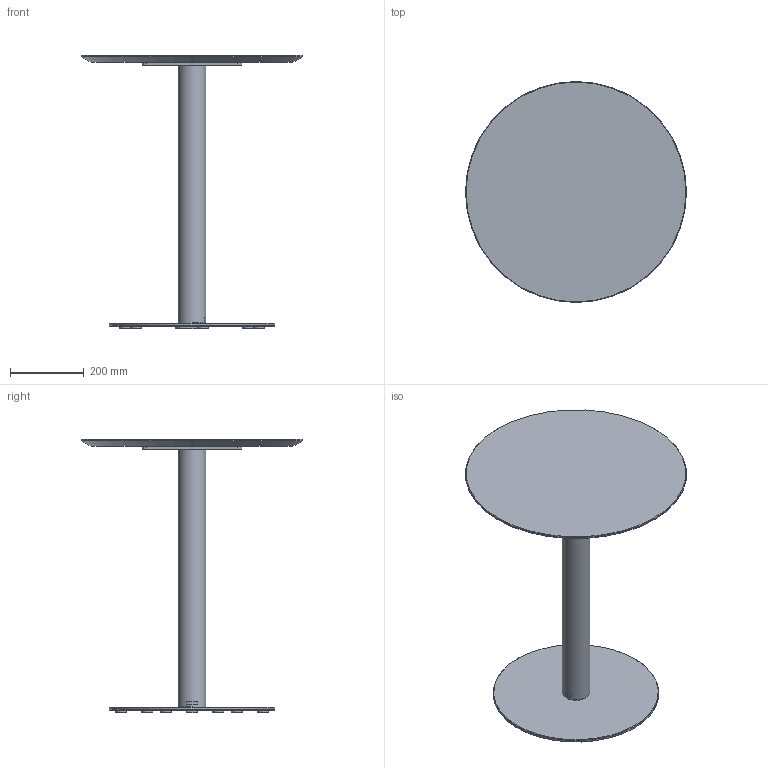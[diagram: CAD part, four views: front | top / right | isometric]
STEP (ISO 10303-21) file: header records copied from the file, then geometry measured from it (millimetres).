
FILE_DESCRIPTION( ('This file contains a STEP AP42 implementation' ,'as created by ZW3D STEP Interface translator.') ,'2;1' );
FILE_NAME( 'Henri - B_Rond - F1 - M5 - 600 x 600 x 750.stp' ,'24 912.151619', (''), ('ZWCAD Software Co.'), 'Version 1.0', 'ZW3D to STEP translator', '' );
FILE_SCHEMA(('AUTOMOTIVE_DESIGN { 1 0 10303 214 1 1 1 1 }'));
Length unit declared in the file: millimetre
Products named in the file (14): 0; PIED BISTROT PARAMETRIQUE_; COLONNE ACIER Ø76 V.02_; TUB-D076-02_; PLA-R76B-01_; SOCLE ACIER C Ø450 V.02_; SCL-D450-02_; PLA-R30A-01_; PLA-R30A-01; CROIX ACIER 370 V.02_; CRX-X370-02_; WUERTH 0276063020 Euro-screw 6.3x2 Verzinkt_; PLATEAU BISTROT PARAMETRIQUE_; insert_m6_13_
Assembly tree (24 placements, depth 3):
  0
  PIED BISTROT PARAMETRIQUE_
    COLONNE ACIER Ø76 V.02_
      TUB-D076-02_
      PLA-R76B-01_  x2
    SOCLE ACIER C Ø450 V.02_
      SCL-D450-02_
      PLA-R30A-01_
      PLA-R30A-01  x5
    CROIX ACIER 370 V.02_
      CRX-X370-02_
    WUERTH 0276063020 Euro-screw 6.3x2 Verzinkt_
    PLATEAU BISTROT PARAMETRIQUE_
      insert_m6_13_  x8
Bounding box: 600 x 600 x 744 mm (x, y, z)
Volume: 7523396.8 mm3; surface area: 1435758.3 mm2
Topology: 21 solids, 21 shells, 524 faces, 1273 edges, 802 vertices
Faces by surface type: plane 254, bspline 121, cylinder 99, cone 49, torus 1
Full cylindrical faces by diameter (mm): 4.88 x1, 6 x8, 6.3 x1, 8 x47, 12 x2, 14 x2, 30 x6, 72 x1, 76 x1, 450 x1
Entity records: 11734 total; most frequent: CARTESIAN_POINT 3302, ORIENTED_EDGE 1526, DIRECTION 1424, EDGE_CURVE 763, VERTEX_POINT 490, VECTOR 476, LINE 476, AXIS2_PLACEMENT_3D 474
